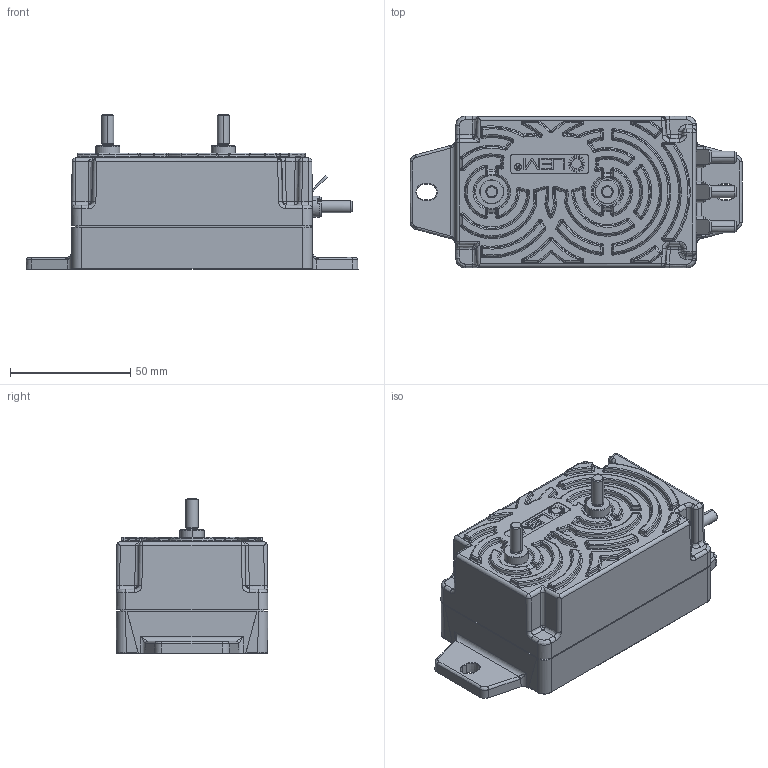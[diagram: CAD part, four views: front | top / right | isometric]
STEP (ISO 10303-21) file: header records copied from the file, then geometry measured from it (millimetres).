
FILE_DESCRIPTION(('CoCreate Modeling STEP Export'),'2;1');
FILE_NAME('DVL 750.stp','2013-01-23T 8:31:28',(''),(''),'CoCreate Modeling STEP processor for AP214 (Solid Model)','CoCreate Modeling 17.0B 09-Oct-2010 (C) Parametric Technology GmbH','');
FILE_SCHEMA(('AUTOMOTIVE_DESIGN { 1 0 10303 214 1 1 1 1 }'));
Products named in the file (1): BLACKBOX_DVL_ENCOMB_TYPE_A
Bounding box: 137.83 x 63.01 x 64.3 mm (x, y, z)
Volume: 293630.3 mm3; surface area: 35925.4 mm2
Topology: 1 solids, 2 shells, 1929 faces, 4746 edges, 2838 vertices
Faces by surface type: bspline 832, plane 555, cylinder 228, torus 159, cone 118, sphere 25, extrusion 12
Entity records: 118212 total; most frequent: CARTESIAN_POINT 80287, ORIENTED_EDGE 9410, EDGE_CURVE 4705, DIRECTION 4605, VERTEX_POINT 2838, EDGE_LOOP 1993, FACE_OUTER_BOUND 1929, ADVANCED_FACE 1929
